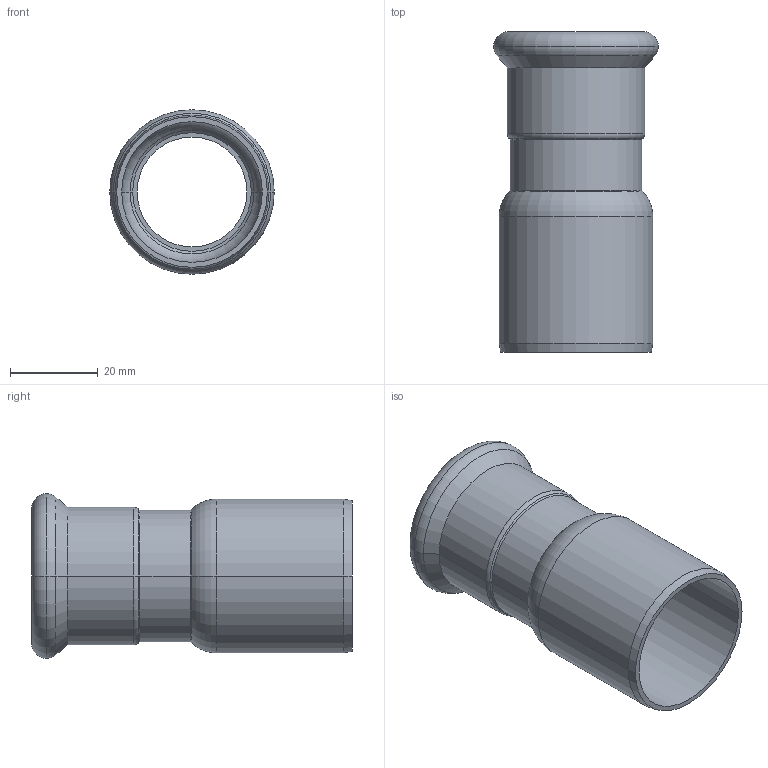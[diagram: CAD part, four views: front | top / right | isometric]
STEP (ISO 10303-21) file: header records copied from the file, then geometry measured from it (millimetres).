
FILE_DESCRIPTION(('CoCreate Modeling STEP Export'),'2;1');
FILE_NAME('C1407 28x35.stp','2014-11-07T16:31:42',(''),(''),'CoCreate Modeling STEP processor for AP214 (Solid Model)','CoCreate Modeling 17.00A 17-Jun-2010 (C) Parametric Technology GmbH','');
FILE_SCHEMA(('AUTOMOTIVE_DESIGN { 1 0 10303 214 1 1 1 1 }'));
Length unit declared in the file: millimetre
Products named in the file (2): C1407_28x35
Assembly tree (1 placements, depth 2):
  C1407_28x35
    C1407_28x35
Bounding box: 37.45 x 73 x 37.45 mm (x, y, z)
Volume: 13029.2 mm3; surface area: 15449.8 mm2
Topology: 1 solids, 1 shells, 41 faces, 84 edges, 48 vertices
Faces by surface type: cylinder 16, cone 10, torus 10, plane 5
Entity records: 913 total; most frequent: ORIENTED_EDGE 168, DIRECTION 140, CARTESIAN_POINT 131, EDGE_CURVE 84, AXIS2_PLACEMENT_3D 57, VERTEX_POINT 48, EDGE_LOOP 46, FACE_OUTER_BOUND 41
